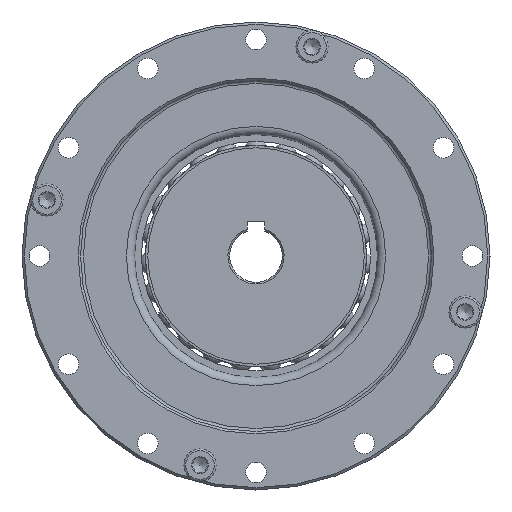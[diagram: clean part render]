
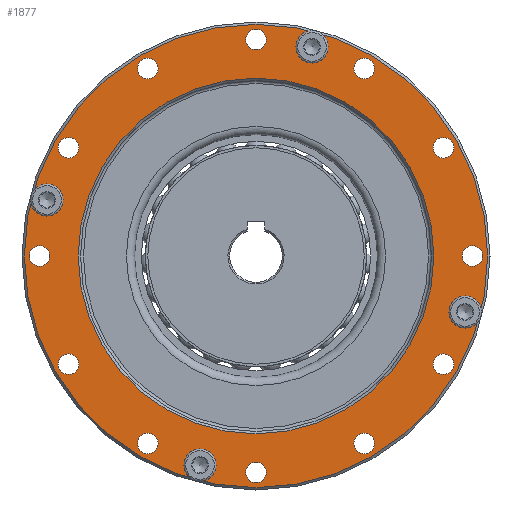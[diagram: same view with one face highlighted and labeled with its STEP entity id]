
A CAD part, left-side view. The second image highlights one B-rep face of the part: STEP entity #1877.
In plain terms, the highlighted planar face has unit normal (-1, 0, 0).
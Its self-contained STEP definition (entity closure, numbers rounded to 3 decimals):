
#688=FACE_BOUND('',#2948,.T.);
#689=FACE_BOUND('',#2949,.T.);
#690=FACE_BOUND('',#2950,.T.);
#691=FACE_BOUND('',#2951,.T.);
#692=FACE_BOUND('',#2952,.T.);
#693=FACE_BOUND('',#2953,.T.);
#694=FACE_BOUND('',#2954,.T.);
#695=FACE_BOUND('',#2955,.T.);
#696=FACE_BOUND('',#2956,.T.);
#697=FACE_BOUND('',#2957,.T.);
#698=FACE_BOUND('',#2958,.T.);
#699=FACE_BOUND('',#2959,.T.);
#700=FACE_BOUND('',#2960,.T.);
#701=FACE_BOUND('',#2961,.T.);
#702=FACE_BOUND('',#2962,.T.);
#703=FACE_BOUND('',#2963,.T.);
#704=FACE_BOUND('',#2964,.T.);
#705=FACE_BOUND('',#2965,.T.);
#1877=ADVANCED_FACE('',(#688,#689,#690,#691,#692,#693,#694,#695,#696,#697,
#698,#699,#700,#701,#702,#703,#704,#705),#2454,.T.);
#2454=PLANE('',#9010);
#2948=EDGE_LOOP('',(#3944));
#2949=EDGE_LOOP('',(#3945));
#2950=EDGE_LOOP('',(#3946));
#2951=EDGE_LOOP('',(#3947));
#2952=EDGE_LOOP('',(#3948));
#2953=EDGE_LOOP('',(#3949));
#2954=EDGE_LOOP('',(#3950));
#2955=EDGE_LOOP('',(#3951));
#2956=EDGE_LOOP('',(#3952));
#2957=EDGE_LOOP('',(#3953));
#2958=EDGE_LOOP('',(#3954));
#2959=EDGE_LOOP('',(#3955));
#2960=EDGE_LOOP('',(#3956));
#2961=EDGE_LOOP('',(#3957));
#2962=EDGE_LOOP('',(#3958));
#2963=EDGE_LOOP('',(#3959));
#2964=EDGE_LOOP('',(#3960));
#2965=EDGE_LOOP('',(#3961));
#3944=ORIENTED_EDGE('',*,*,#6770,.F.);
#3945=ORIENTED_EDGE('',*,*,#6771,.F.);
#3946=ORIENTED_EDGE('',*,*,#6772,.F.);
#3947=ORIENTED_EDGE('',*,*,#6773,.F.);
#3948=ORIENTED_EDGE('',*,*,#6774,.F.);
#3949=ORIENTED_EDGE('',*,*,#6775,.F.);
#3950=ORIENTED_EDGE('',*,*,#6776,.F.);
#3951=ORIENTED_EDGE('',*,*,#6777,.F.);
#3952=ORIENTED_EDGE('',*,*,#6778,.F.);
#3953=ORIENTED_EDGE('',*,*,#6779,.F.);
#3954=ORIENTED_EDGE('',*,*,#6780,.F.);
#3955=ORIENTED_EDGE('',*,*,#6781,.F.);
#3956=ORIENTED_EDGE('',*,*,#6782,.F.);
#3957=ORIENTED_EDGE('',*,*,#6783,.F.);
#3958=ORIENTED_EDGE('',*,*,#6784,.F.);
#3959=ORIENTED_EDGE('',*,*,#6785,.F.);
#3960=ORIENTED_EDGE('',*,*,#6786,.T.);
#3961=ORIENTED_EDGE('',*,*,#6787,.T.);
#5940=VERTEX_POINT('',#12764);
#5941=VERTEX_POINT('',#12766);
#5942=VERTEX_POINT('',#12768);
#5943=VERTEX_POINT('',#12770);
#5944=VERTEX_POINT('',#12772);
#5945=VERTEX_POINT('',#12774);
#5946=VERTEX_POINT('',#12776);
#5947=VERTEX_POINT('',#12778);
#5948=VERTEX_POINT('',#12780);
#5949=VERTEX_POINT('',#12782);
#5950=VERTEX_POINT('',#12784);
#5951=VERTEX_POINT('',#12786);
#5952=VERTEX_POINT('',#12788);
#5953=VERTEX_POINT('',#12790);
#5954=VERTEX_POINT('',#12792);
#5955=VERTEX_POINT('',#12794);
#5956=VERTEX_POINT('',#12796);
#5957=VERTEX_POINT('',#12798);
#6770=EDGE_CURVE('',#5940,#5940,#8220,.T.);
#6771=EDGE_CURVE('',#5941,#5941,#8221,.T.);
#6772=EDGE_CURVE('',#5942,#5942,#8222,.T.);
#6773=EDGE_CURVE('',#5943,#5943,#8223,.T.);
#6774=EDGE_CURVE('',#5944,#5944,#8224,.T.);
#6775=EDGE_CURVE('',#5945,#5945,#8225,.T.);
#6776=EDGE_CURVE('',#5946,#5946,#8226,.T.);
#6777=EDGE_CURVE('',#5947,#5947,#8227,.T.);
#6778=EDGE_CURVE('',#5948,#5948,#8228,.T.);
#6779=EDGE_CURVE('',#5949,#5949,#8229,.T.);
#6780=EDGE_CURVE('',#5950,#5950,#8230,.T.);
#6781=EDGE_CURVE('',#5951,#5951,#8231,.T.);
#6782=EDGE_CURVE('',#5952,#5952,#8232,.T.);
#6783=EDGE_CURVE('',#5953,#5953,#8233,.T.);
#6784=EDGE_CURVE('',#5954,#5954,#8234,.T.);
#6785=EDGE_CURVE('',#5955,#5955,#8235,.T.);
#6786=EDGE_CURVE('',#5956,#5956,#8236,.T.);
#6787=EDGE_CURVE('',#5957,#5957,#8237,.T.);
#8220=CIRCLE('',#8992,1.75);
#8221=CIRCLE('',#8993,1.75);
#8222=CIRCLE('',#8994,1.75);
#8223=CIRCLE('',#8995,1.75);
#8224=CIRCLE('',#8996,1.75);
#8225=CIRCLE('',#8997,1.75);
#8226=CIRCLE('',#8998,1.75);
#8227=CIRCLE('',#8999,1.75);
#8228=CIRCLE('',#9000,1.75);
#8229=CIRCLE('',#9001,1.75);
#8230=CIRCLE('',#9002,1.75);
#8231=CIRCLE('',#9003,1.75);
#8232=CIRCLE('',#9004,1.75);
#8233=CIRCLE('',#9005,1.75);
#8234=CIRCLE('',#9006,1.75);
#8235=CIRCLE('',#9007,1.75);
#8236=CIRCLE('',#9008,30.4);
#8237=CIRCLE('',#9009,39.6);
#8992=AXIS2_PLACEMENT_3D('',#12763,#10282,#10283);
#8993=AXIS2_PLACEMENT_3D('',#12765,#10284,#10285);
#8994=AXIS2_PLACEMENT_3D('',#12767,#10286,#10287);
#8995=AXIS2_PLACEMENT_3D('',#12769,#10288,#10289);
#8996=AXIS2_PLACEMENT_3D('',#12771,#10290,#10291);
#8997=AXIS2_PLACEMENT_3D('',#12773,#10292,#10293);
#8998=AXIS2_PLACEMENT_3D('',#12775,#10294,#10295);
#8999=AXIS2_PLACEMENT_3D('',#12777,#10296,#10297);
#9000=AXIS2_PLACEMENT_3D('',#12779,#10298,#10299);
#9001=AXIS2_PLACEMENT_3D('',#12781,#10300,#10301);
#9002=AXIS2_PLACEMENT_3D('',#12783,#10302,#10303);
#9003=AXIS2_PLACEMENT_3D('',#12785,#10304,#10305);
#9004=AXIS2_PLACEMENT_3D('',#12787,#10306,#10307);
#9005=AXIS2_PLACEMENT_3D('',#12789,#10308,#10309);
#9006=AXIS2_PLACEMENT_3D('',#12791,#10310,#10311);
#9007=AXIS2_PLACEMENT_3D('',#12793,#10312,#10313);
#9008=AXIS2_PLACEMENT_3D('',#12795,#10314,#10315);
#9009=AXIS2_PLACEMENT_3D('',#12797,#10316,#10317);
#9010=AXIS2_PLACEMENT_3D('',#12799,#10318,#10319);
#10282=DIRECTION('',(-1.,0.,0.));
#10283=DIRECTION('',(0.,-0.866,0.5));
#10284=DIRECTION('',(-1.,0.,0.));
#10285=DIRECTION('',(0.,-0.866,0.5));
#10286=DIRECTION('',(-1.,0.,0.));
#10287=DIRECTION('',(0.,-0.866,0.5));
#10288=DIRECTION('',(-1.,0.,0.));
#10289=DIRECTION('',(0.,-0.866,0.5));
#10290=DIRECTION('',(-1.,0.,0.));
#10291=DIRECTION('',(0.,-0.866,0.5));
#10292=DIRECTION('',(-1.,0.,0.));
#10293=DIRECTION('',(0.,-0.866,0.5));
#10294=DIRECTION('',(-1.,0.,0.));
#10295=DIRECTION('',(0.,-0.866,0.5));
#10296=DIRECTION('',(-1.,0.,0.));
#10297=DIRECTION('',(0.,-0.866,0.5));
#10298=DIRECTION('',(-1.,0.,0.));
#10299=DIRECTION('',(0.,-0.866,0.5));
#10300=DIRECTION('',(-1.,0.,0.));
#10301=DIRECTION('',(0.,-0.866,0.5));
#10302=DIRECTION('',(-1.,0.,0.));
#10303=DIRECTION('',(0.,-0.866,0.5));
#10304=DIRECTION('',(-1.,0.,0.));
#10305=DIRECTION('',(0.,-0.866,0.5));
#10306=DIRECTION('',(-1.,0.,0.));
#10307=DIRECTION('',(0.,-0.866,0.5));
#10308=DIRECTION('',(-1.,0.,0.));
#10309=DIRECTION('',(0.,-0.866,0.5));
#10310=DIRECTION('',(-1.,0.,0.));
#10311=DIRECTION('',(0.,-0.866,0.5));
#10312=DIRECTION('',(-1.,0.,0.));
#10313=DIRECTION('',(0.,-0.866,0.5));
#10314=DIRECTION('',(1.,0.,0.));
#10315=DIRECTION('',(0.,-0.866,0.5));
#10316=DIRECTION('',(-1.,0.,0.));
#10317=DIRECTION('',(0.,-0.866,0.5));
#10318=DIRECTION('',(-1.,0.,0.));
#10319=DIRECTION('',(0.,-0.866,0.5));
#12763=CARTESIAN_POINT('',(-26.5,-9.576,35.739));
#12764=CARTESIAN_POINT('',(-26.5,-11.092,36.614));
#12765=CARTESIAN_POINT('',(-26.5,35.739,9.576));
#12766=CARTESIAN_POINT('',(-26.5,34.224,10.451));
#12767=CARTESIAN_POINT('',(-26.5,9.576,-35.739));
#12768=CARTESIAN_POINT('',(-26.5,8.061,-34.864));
#12769=CARTESIAN_POINT('',(-26.5,-35.739,-9.576));
#12770=CARTESIAN_POINT('',(-26.5,-37.255,-8.701));
#12771=CARTESIAN_POINT('',(-26.5,-37.,0.));
#12772=CARTESIAN_POINT('',(-26.5,-38.516,0.875));
#12773=CARTESIAN_POINT('',(-26.5,-32.043,-18.5));
#12774=CARTESIAN_POINT('',(-26.5,-33.558,-17.625));
#12775=CARTESIAN_POINT('',(-26.5,-18.5,-32.043));
#12776=CARTESIAN_POINT('',(-26.5,-20.016,-31.168));
#12777=CARTESIAN_POINT('',(-26.5,0.,-37.));
#12778=CARTESIAN_POINT('',(-26.5,-1.516,-36.125));
#12779=CARTESIAN_POINT('',(-26.5,18.5,-32.043));
#12780=CARTESIAN_POINT('',(-26.5,16.984,-31.168));
#12781=CARTESIAN_POINT('',(-26.5,32.043,-18.5));
#12782=CARTESIAN_POINT('',(-26.5,30.527,-17.625));
#12783=CARTESIAN_POINT('',(-26.5,37.,0.));
#12784=CARTESIAN_POINT('',(-26.5,35.484,0.875));
#12785=CARTESIAN_POINT('',(-26.5,32.043,18.5));
#12786=CARTESIAN_POINT('',(-26.5,30.527,19.375));
#12787=CARTESIAN_POINT('',(-26.5,18.5,32.043));
#12788=CARTESIAN_POINT('',(-26.5,16.984,32.918));
#12789=CARTESIAN_POINT('',(-26.5,0.,37.));
#12790=CARTESIAN_POINT('',(-26.5,-1.516,37.875));
#12791=CARTESIAN_POINT('',(-26.5,-18.5,32.043));
#12792=CARTESIAN_POINT('',(-26.5,-20.016,32.918));
#12793=CARTESIAN_POINT('',(-26.5,-32.043,18.5));
#12794=CARTESIAN_POINT('',(-26.5,-33.558,19.375));
#12795=CARTESIAN_POINT('',(-26.5,0.,0.));
#12796=CARTESIAN_POINT('',(-26.5,-26.327,15.2));
#12797=CARTESIAN_POINT('',(-26.5,0.,0.));
#12798=CARTESIAN_POINT('',(-26.5,-34.295,19.8));
#12799=CARTESIAN_POINT('',(-26.5,15.,25.981));
